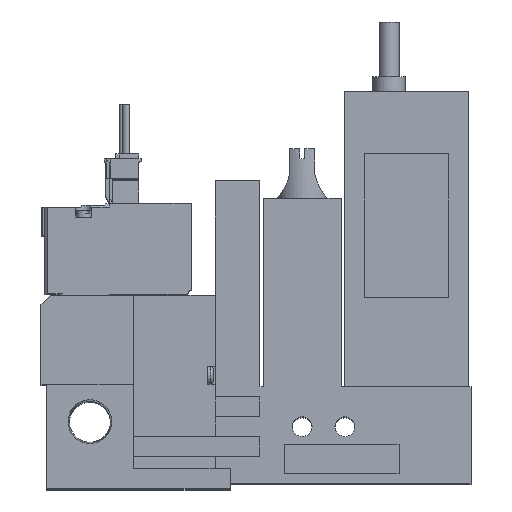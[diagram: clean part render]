
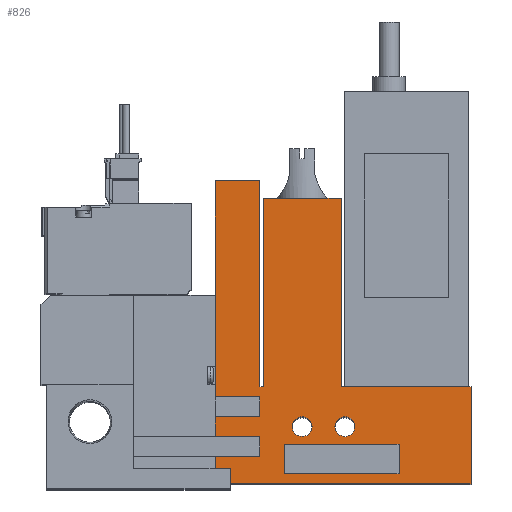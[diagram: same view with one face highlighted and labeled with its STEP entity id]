
A CAD part, top view. The second image highlights one B-rep face of the part: STEP entity #826.
In plain terms, the highlighted planar face has unit normal (0, 0, 1).
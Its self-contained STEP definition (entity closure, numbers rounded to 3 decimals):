
#826=ADVANCED_FACE('',(#1656,#1657,#1658,#1659),#1660,.T.);
#1656=FACE_OUTER_BOUND('',#2838,.T.);
#1657=FACE_BOUND('',#2839,.T.);
#1658=FACE_BOUND('',#2840,.T.);
#1659=FACE_BOUND('',#2841,.T.);
#1660=PLANE('',#2842);
#2838=EDGE_LOOP('',(#5736,#5737,#5738,#5739,#5740,#5741,#5742,#5743,#5744,#5745,#5746,#5747,#5748,#5749,#5750,#5751,#5752,#5753));
#2839=EDGE_LOOP('',(#5754,#5755,#5756,#5757));
#2840=EDGE_LOOP('',(#5758));
#2841=EDGE_LOOP('',(#5759));
#2842=AXIS2_PLACEMENT_3D('',#5760,#5761,#5762);
#5736=ORIENTED_EDGE('',*,*,#8032,.T.);
#5737=ORIENTED_EDGE('',*,*,#8033,.T.);
#5738=ORIENTED_EDGE('',*,*,#8034,.T.);
#5739=ORIENTED_EDGE('',*,*,#8035,.T.);
#5740=ORIENTED_EDGE('',*,*,#8036,.T.);
#5741=ORIENTED_EDGE('',*,*,#8037,.T.);
#5742=ORIENTED_EDGE('',*,*,#8038,.T.);
#5743=ORIENTED_EDGE('',*,*,#8039,.T.);
#5744=ORIENTED_EDGE('',*,*,#8040,.T.);
#5745=ORIENTED_EDGE('',*,*,#8041,.T.);
#5746=ORIENTED_EDGE('',*,*,#8014,.T.);
#5747=ORIENTED_EDGE('',*,*,#8042,.T.);
#5748=ORIENTED_EDGE('',*,*,#8043,.T.);
#5749=ORIENTED_EDGE('',*,*,#8044,.T.);
#5750=ORIENTED_EDGE('',*,*,#8045,.T.);
#5751=ORIENTED_EDGE('',*,*,#8046,.T.);
#5752=ORIENTED_EDGE('',*,*,#8047,.T.);
#5753=ORIENTED_EDGE('',*,*,#8048,.T.);
#5754=ORIENTED_EDGE('',*,*,#8049,.T.);
#5755=ORIENTED_EDGE('',*,*,#8050,.T.);
#5756=ORIENTED_EDGE('',*,*,#8051,.T.);
#5757=ORIENTED_EDGE('',*,*,#8052,.T.);
#5758=ORIENTED_EDGE('',*,*,#8053,.T.);
#5759=ORIENTED_EDGE('',*,*,#8031,.T.);
#5760=CARTESIAN_POINT('',(0.0,0.0,10.0));
#5761=DIRECTION('',(0.0,0.0,1.0));
#5762=DIRECTION('',(1.0,0.0,0.0));
#8014=EDGE_CURVE('',#9706,#9704,#9707,.T.);
#8031=EDGE_CURVE('',#9738,#9738,#9739,.T.);
#8032=EDGE_CURVE('',#9740,#9741,#9742,.T.);
#8033=EDGE_CURVE('',#9741,#9743,#9744,.T.);
#8034=EDGE_CURVE('',#9743,#9745,#9746,.T.);
#8035=EDGE_CURVE('',#9745,#9747,#9748,.T.);
#8036=EDGE_CURVE('',#9747,#9749,#9750,.T.);
#8037=EDGE_CURVE('',#9749,#9751,#9752,.T.);
#8038=EDGE_CURVE('',#9751,#9753,#9754,.T.);
#8039=EDGE_CURVE('',#9753,#9755,#9756,.T.);
#8040=EDGE_CURVE('',#9755,#9757,#9758,.T.);
#8041=EDGE_CURVE('',#9757,#9706,#9759,.T.);
#8042=EDGE_CURVE('',#9704,#9760,#9761,.T.);
#8043=EDGE_CURVE('',#9760,#9762,#9763,.T.);
#8044=EDGE_CURVE('',#9762,#9764,#9765,.T.);
#8045=EDGE_CURVE('',#9764,#9766,#9767,.T.);
#8046=EDGE_CURVE('',#9766,#9768,#9769,.T.);
#8047=EDGE_CURVE('',#9768,#9770,#9771,.T.);
#8048=EDGE_CURVE('',#9770,#9740,#9772,.T.);
#8049=EDGE_CURVE('',#9773,#9774,#9775,.T.);
#8050=EDGE_CURVE('',#9774,#9776,#9777,.T.);
#8051=EDGE_CURVE('',#9776,#9778,#9779,.T.);
#8052=EDGE_CURVE('',#9778,#9773,#9780,.T.);
#8053=EDGE_CURVE('',#9781,#9781,#9782,.T.);
#9704=VERTEX_POINT('',#12434);
#9706=VERTEX_POINT('',#12437);
#9707=LINE('',#12438,#12439);
#9738=VERTEX_POINT('',#12482);
#9739=CIRCLE('',#12483,2.0);
#9740=VERTEX_POINT('',#12484);
#9741=VERTEX_POINT('',#12485);
#9742=LINE('',#12486,#12487);
#9743=VERTEX_POINT('',#12488);
#9744=LINE('',#12489,#12490);
#9745=VERTEX_POINT('',#12491);
#9746=LINE('',#12492,#12493);
#9747=VERTEX_POINT('',#12494);
#9748=LINE('',#12495,#12496);
#9749=VERTEX_POINT('',#12497);
#9750=LINE('',#12498,#12499);
#9751=VERTEX_POINT('',#12500);
#9752=LINE('',#12501,#12502);
#9753=VERTEX_POINT('',#12503);
#9754=LINE('',#12504,#12505);
#9755=VERTEX_POINT('',#12506);
#9756=LINE('',#12507,#12508);
#9757=VERTEX_POINT('',#12509);
#9758=LINE('',#12510,#12511);
#9759=LINE('',#12512,#12513);
#9760=VERTEX_POINT('',#12514);
#9761=LINE('',#12515,#12516);
#9762=VERTEX_POINT('',#12517);
#9763=LINE('',#12518,#12519);
#9764=VERTEX_POINT('',#12520);
#9765=LINE('',#12521,#12522);
#9766=VERTEX_POINT('',#12523);
#9767=LINE('',#12524,#12525);
#9768=VERTEX_POINT('',#12526);
#9769=LINE('',#12527,#12528);
#9770=VERTEX_POINT('',#12529);
#9771=LINE('',#12530,#12531);
#9772=LINE('',#12532,#12533);
#9773=VERTEX_POINT('',#12534);
#9774=VERTEX_POINT('',#12535);
#9775=LINE('',#12536,#12537);
#9776=VERTEX_POINT('',#12538);
#9777=LINE('',#12539,#12540);
#9778=VERTEX_POINT('',#12541);
#9779=LINE('',#12542,#12543);
#9780=LINE('',#12544,#12545);
#9781=VERTEX_POINT('',#12546);
#9782=CIRCLE('',#12547,2.0);
#12434=CARTESIAN_POINT('',(86.6,19.5,10.0));
#12437=CARTESIAN_POINT('',(86.6,0.0,10.0));
#12438=CARTESIAN_POINT('',(86.6,0.0,10.0));
#12439=VECTOR('',#14704,1.0);
#12482=CARTESIAN_POINT('',(63.2,11.5,10.0));
#12483=AXIS2_PLACEMENT_3D('',#14729,#14730,#14731);
#12484=CARTESIAN_POINT('',(35.1,61.0,10.0));
#12485=CARTESIAN_POINT('',(35.1,17.5,10.0));
#12486=CARTESIAN_POINT('',(35.1,61.0,10.0));
#12487=VECTOR('',#14732,1.0);
#12488=CARTESIAN_POINT('',(44.1,17.5,10.0));
#12489=CARTESIAN_POINT('',(0.0,17.5,10.0));
#12490=VECTOR('',#14733,1.0);
#12491=CARTESIAN_POINT('',(44.1,13.5,10.0));
#12492=CARTESIAN_POINT('',(44.1,0.0,10.0));
#12493=VECTOR('',#14734,1.0);
#12494=CARTESIAN_POINT('',(35.1,13.5,10.0));
#12495=CARTESIAN_POINT('',(0.0,13.5,10.0));
#12496=VECTOR('',#14735,1.0);
#12497=CARTESIAN_POINT('',(35.1,9.5,10.0));
#12498=CARTESIAN_POINT('',(35.1,0.0,10.0));
#12499=VECTOR('',#14736,1.0);
#12500=CARTESIAN_POINT('',(44.1,9.5,10.0));
#12501=CARTESIAN_POINT('',(0.0,9.5,10.0));
#12502=VECTOR('',#14737,1.0);
#12503=CARTESIAN_POINT('',(44.1,5.5,10.0));
#12504=CARTESIAN_POINT('',(44.1,0.0,10.0));
#12505=VECTOR('',#14738,1.0);
#12506=CARTESIAN_POINT('',(35.1,5.5,10.0));
#12507=CARTESIAN_POINT('',(0.0,5.5,10.0));
#12508=VECTOR('',#14739,1.0);
#12509=CARTESIAN_POINT('',(35.1,0.0,10.0));
#12510=CARTESIAN_POINT('',(35.1,0.0,10.0));
#12511=VECTOR('',#14740,1.0);
#12512=CARTESIAN_POINT('',(18.6,0.0,10.0));
#12513=VECTOR('',#14741,1.0);
#12514=CARTESIAN_POINT('',(60.45,19.5,10.0));
#12515=CARTESIAN_POINT('',(86.6,19.5,10.0));
#12516=VECTOR('',#14742,1.0);
#12517=CARTESIAN_POINT('',(60.45,57.5,10.0));
#12518=CARTESIAN_POINT('',(60.45,19.5,10.0));
#12519=VECTOR('',#14743,1.0);
#12520=CARTESIAN_POINT('',(44.75,57.5,10.0));
#12521=CARTESIAN_POINT('',(60.45,57.5,10.0));
#12522=VECTOR('',#14744,1.0);
#12523=CARTESIAN_POINT('',(44.75,19.5,10.0));
#12524=CARTESIAN_POINT('',(44.75,57.5,10.0));
#12525=VECTOR('',#14745,1.0);
#12526=CARTESIAN_POINT('',(44.1,19.5,10.0));
#12527=CARTESIAN_POINT('',(44.75,19.5,10.0));
#12528=VECTOR('',#14746,1.0);
#12529=CARTESIAN_POINT('',(44.1,61.0,10.0));
#12530=CARTESIAN_POINT('',(44.1,19.5,10.0));
#12531=VECTOR('',#14747,1.0);
#12532=CARTESIAN_POINT('',(44.1,61.0,10.0));
#12533=VECTOR('',#14748,1.0);
#12534=CARTESIAN_POINT('',(49.1,2.0,10.0));
#12535=CARTESIAN_POINT('',(49.1,8.0,10.0));
#12536=CARTESIAN_POINT('',(49.1,0.0,10.0));
#12537=VECTOR('',#14749,1.0);
#12538=CARTESIAN_POINT('',(72.1,8.0,10.0));
#12539=CARTESIAN_POINT('',(0.0,8.0,10.0));
#12540=VECTOR('',#14750,1.0);
#12541=CARTESIAN_POINT('',(72.1,2.0,10.0));
#12542=CARTESIAN_POINT('',(72.1,0.0,10.0));
#12543=VECTOR('',#14751,1.0);
#12544=CARTESIAN_POINT('',(0.0,2.0,10.0));
#12545=VECTOR('',#14752,1.0);
#12546=CARTESIAN_POINT('',(54.6,11.5,10.0));
#12547=AXIS2_PLACEMENT_3D('',#14753,#14754,#14755);
#14704=DIRECTION('',(0.0,1.0,0.0));
#14729=CARTESIAN_POINT('',(61.2,11.5,10.0));
#14730=DIRECTION('',(0.0,0.0,-1.0));
#14731=DIRECTION('',(1.0,0.0,0.0));
#14732=DIRECTION('',(0.0,-1.0,0.0));
#14733=DIRECTION('',(1.0,0.0,0.0));
#14734=DIRECTION('',(0.0,-1.0,0.0));
#14735=DIRECTION('',(-1.0,0.0,0.0));
#14736=DIRECTION('',(0.0,-1.0,0.0));
#14737=DIRECTION('',(1.0,0.0,0.0));
#14738=DIRECTION('',(0.0,-1.0,0.0));
#14739=DIRECTION('',(-1.0,0.0,0.0));
#14740=DIRECTION('',(0.0,-1.0,0.0));
#14741=DIRECTION('',(1.0,0.0,0.0));
#14742=DIRECTION('',(-1.0,0.0,0.0));
#14743=DIRECTION('',(0.0,1.0,0.0));
#14744=DIRECTION('',(-1.0,0.0,0.0));
#14745=DIRECTION('',(0.0,-1.0,0.0));
#14746=DIRECTION('',(-1.0,0.0,0.0));
#14747=DIRECTION('',(0.0,1.0,0.0));
#14748=DIRECTION('',(-1.0,0.0,0.0));
#14749=DIRECTION('',(0.0,1.0,0.0));
#14750=DIRECTION('',(1.0,0.0,0.0));
#14751=DIRECTION('',(0.0,-1.0,0.0));
#14752=DIRECTION('',(-1.0,0.0,0.0));
#14753=CARTESIAN_POINT('',(52.6,11.5,10.0));
#14754=DIRECTION('',(0.0,0.0,-1.0));
#14755=DIRECTION('',(1.0,0.0,0.0));
